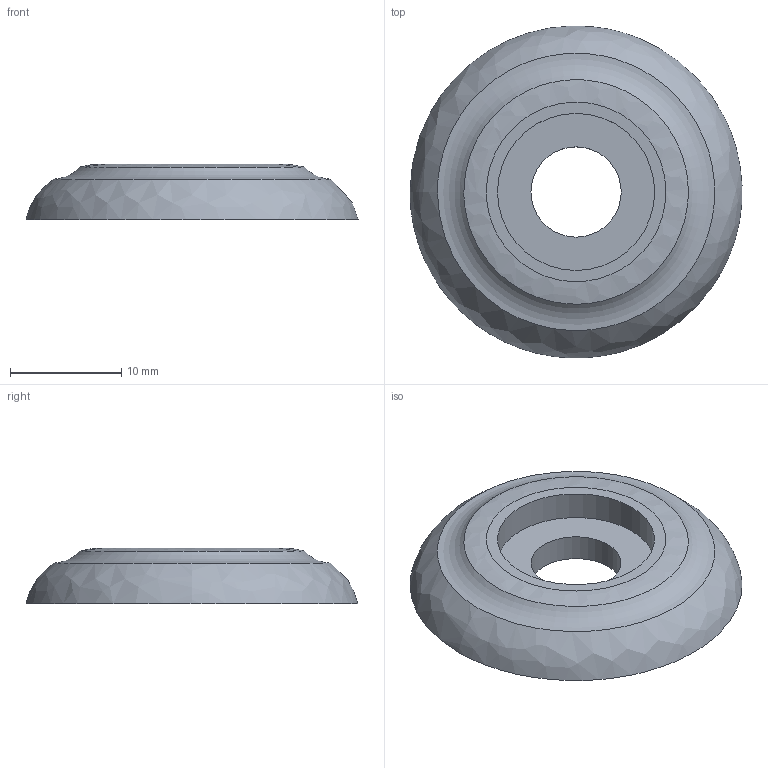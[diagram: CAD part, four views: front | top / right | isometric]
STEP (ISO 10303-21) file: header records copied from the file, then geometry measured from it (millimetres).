
FILE_DESCRIPTION(/* description */ (''),/* implementation_level */ '2;1');
FILE_NAME(/* name */ 'shock-ring.step',/* time_stamp */ '2026-03-22T08:48:58+01:00',/* author */ (''),/* organization */ (''),/* preprocessor_version */ 'ST-DEVELOPER v20.1',/* originating_system */ 'Autodesk Translation Framework v14.24.0.0',/* authorisation */ '');
FILE_SCHEMA (('AUTOMOTIVE_DESIGN { 1 0 10303 214 3 1 1 }'));
Length unit declared in the file: millimetre
Products named in the file (1): 2025-09-22-15-26-51-302
Bounding box: 29.79 x 29.79 x 5 mm (x, y, z)
Volume: 2203 mm3; surface area: 1673.6 mm2
Topology: 1 solids, 1 shells, 8 faces, 13 edges, 8 vertices
Faces by surface type: plane 3, bspline 2, cylinder 2, torus 1
Full cylindrical faces by diameter (mm): 8.1 x1, 14.1 x1
Entity records: 512 total; most frequent: CARTESIAN_POINT 330, ORIENTED_EDGE 26, DIRECTION 26, EDGE_CURVE 13, AXIS2_PLACEMENT_3D 12, EDGE_LOOP 11, FACE_OUTER_BOUND 8, VERTEX_POINT 8
